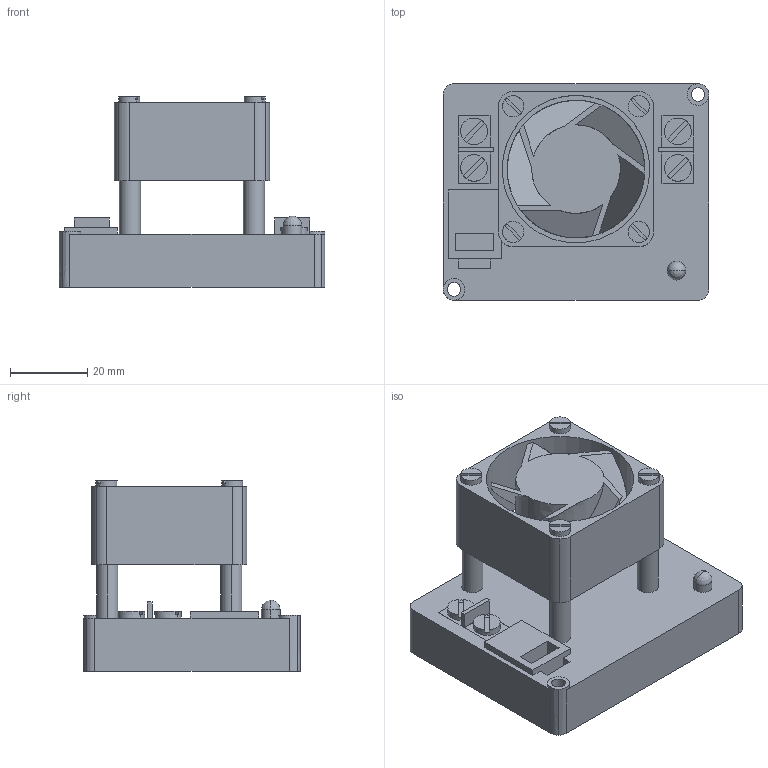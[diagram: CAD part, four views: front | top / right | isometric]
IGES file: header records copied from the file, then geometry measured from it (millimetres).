
Global section: file name: C:\Documents and Settings\Administrator\Desktop\Transfer Temp\victor883.igs; native system: AutoDesk Inventor R2.0 ; preprocessor: AutoDesk Inventor Iges Exporter R2.0; author: No Author specified; organization: No Organization specified; date: 20020121.154048; units: inch
Bounding box: 68.58 x 55.88 x 49.23 mm (x, y, z)
Surface area: 26108.8 mm2 (no closed solid volume)
Topology: 0 solids, 0 shells, 205 faces, 994 edges, 990 vertices
Faces by surface type: bspline 127, revolution 78
